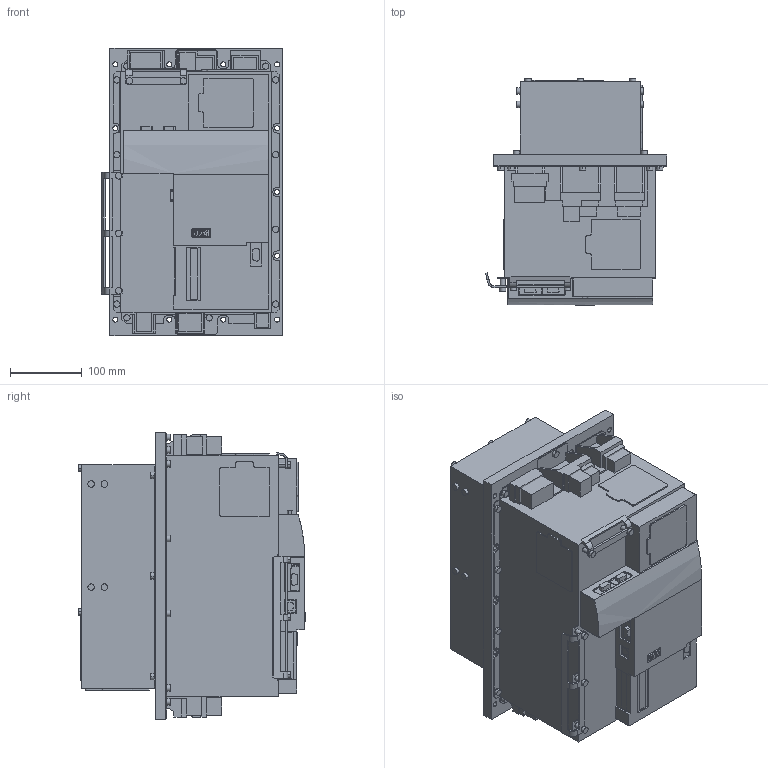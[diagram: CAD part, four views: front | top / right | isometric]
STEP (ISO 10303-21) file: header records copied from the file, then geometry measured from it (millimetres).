
FILE_DESCRIPTION (( 'STEP AP214' ), '1' );
FILE_NAME ('18_19P6 mit Profibus Steuerung.STEP', '2020-09-25T10:07:23', ( '' ), ( '' ), 'SwSTEP 2.0', 'SolidWorks 2019', '' );
FILE_SCHEMA (( 'AUTOMOTIVE_DESIGN' ));
Length unit declared in the file: millimetre
Products named in the file (12): 10061124_000_kundenmodell; 18_19P6 mit Profibus Steuerung; 10061123_000_Kundenmodell; 10060997_000_Kundenmodell; 10061763_000; 10061757_000; 10061699_000; 10014308_000; 10061177_000; 10061712_000; 10061131_000_Kundenmodell; 10061067_000_Kundenmodell
Assembly tree (11 placements, depth 3):
  18_19P6 mit Profibus Steuerung
    10061067_000_Kundenmodell
      10061712_000
    10061123_000_Kundenmodell
      10061757_000
    10060997_000_Kundenmodell
      10061699_000
    10061124_000_kundenmodell
      10061763_000
    10061131_000_Kundenmodell
      10014308_000
      10061177_000
Bounding box: 251.83 x 315.93 x 400 mm (x, y, z)
Volume: 19653499 mm3; surface area: 1065554 mm2
Topology: 13 solids, 43 shells, 1715 faces, 4652 edges, 3066 vertices
Faces by surface type: plane 1211, cylinder 441, bspline 44, torus 9, cone 8, sphere 2
Entity records: 56944 total; most frequent: CARTESIAN_POINT 11798, ORIENTED_EDGE 9296, DIRECTION 8670, EDGE_CURVE 4648, VECTOR 3546, LINE 3546, VERTEX_POINT 3064, AXIS2_PLACEMENT_3D 2562
